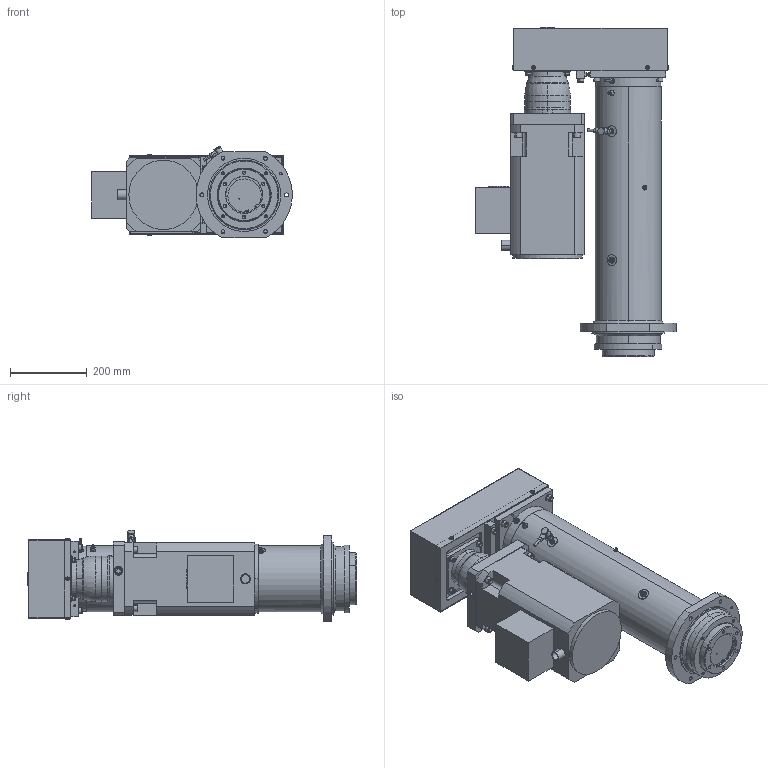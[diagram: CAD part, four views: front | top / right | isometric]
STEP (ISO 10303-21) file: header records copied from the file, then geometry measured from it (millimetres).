
FILE_DESCRIPTION (( 'STEP AP203' ), '1' );
FILE_NAME ('374065.STEP', '2014-06-04T10:24:16', ( 'Holtz' ), ( '' ), 'SwSTEP 2.0', 'SolidWorks 2013', '' );
FILE_SCHEMA (( 'CONFIG_CONTROL_DESIGN' ));
Length unit declared in the file: millimetre
Products named in the file (1): 374065
Bounding box: 520.16 x 856 x 238.85 mm (x, y, z)
Volume: 27758120.2 mm3; surface area: 2810433.8 mm2
Topology: 73 solids, 74 shells, 2502 faces, 5992 edges, 3675 vertices
Faces by surface type: cylinder 964, plane 904, cone 437, bspline 127, torus 70
Entity records: 83055 total; most frequent: CARTESIAN_POINT 24735, DIRECTION 12755, ORIENTED_EDGE 11618, EDGE_CURVE 5809, AXIS2_PLACEMENT_3D 5050, VERTEX_POINT 3675, EDGE_LOOP 3002, CIRCLE 2674
